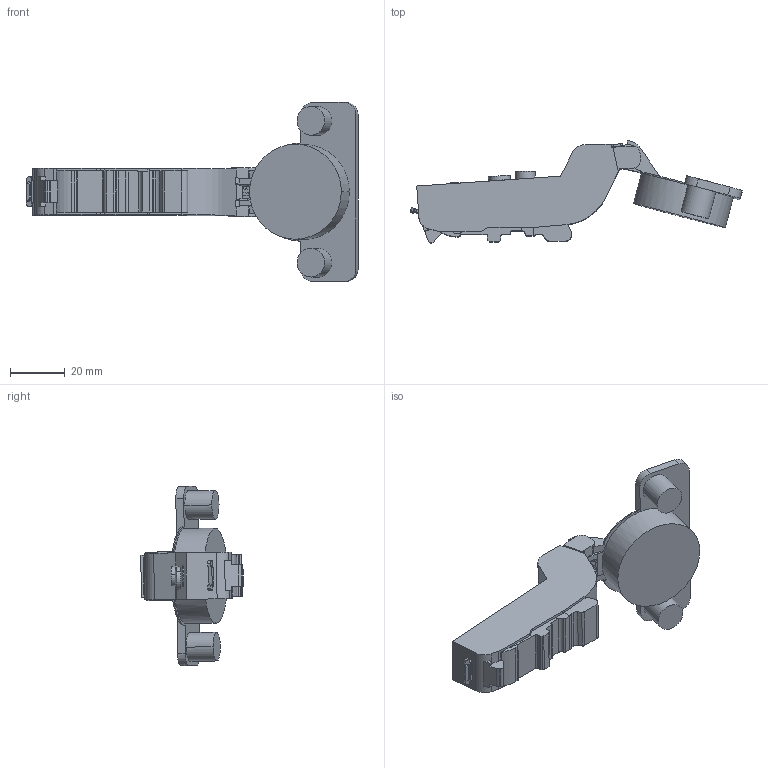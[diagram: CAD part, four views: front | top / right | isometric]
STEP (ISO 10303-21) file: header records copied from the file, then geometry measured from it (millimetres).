
FILE_DESCRIPTION (( 'STEP AP203' ), '1' );
FILE_NAME ('C81C877MFAB DTC 3D OPEN.STEP', '2024-07-18T07:34:11', ( '微软用户' ), ( '微软中国' ), 'SwSTEP 2.0', 'SolidWorks 2021', '' );
FILE_SCHEMA (( 'CONFIG_CONTROL_DESIGN' ));
Length unit declared in the file: millimetre
Products named in the file (1): C81C877MFAB DTC 3D OPEN
Bounding box: 121.69 x 37.5 x 65.65 mm (x, y, z)
Volume: 44819.3 mm3; surface area: 13606 mm2
Topology: 1 solids, 2 shells, 389 faces, 1107 edges, 733 vertices
Faces by surface type: plane 202, cylinder 149, torus 16, bspline 16, cone 6
Entity records: 13155 total; most frequent: CARTESIAN_POINT 3037, ORIENTED_EDGE 2214, DIRECTION 2040, EDGE_CURVE 1107, VERTEX_POINT 733, AXIS2_PLACEMENT_3D 706, LINE 628, VECTOR 628
